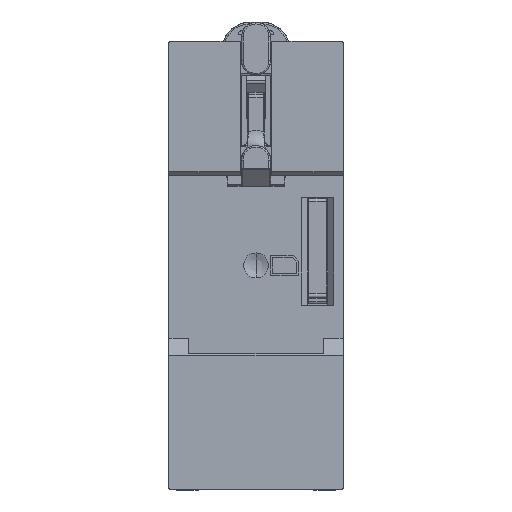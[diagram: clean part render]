
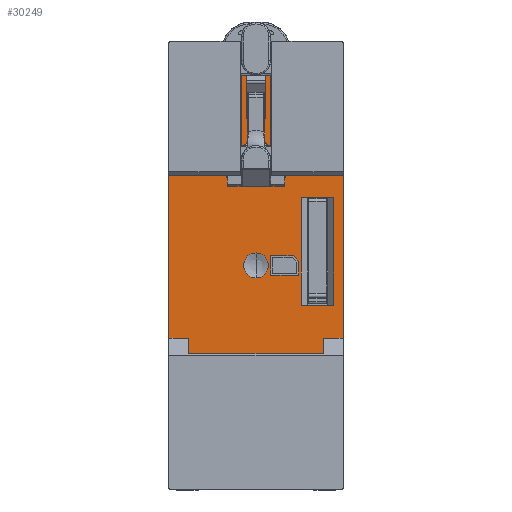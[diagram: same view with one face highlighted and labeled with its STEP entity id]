
A CAD part, top view. The second image highlights one B-rep face of the part: STEP entity #30249.
In plain terms, the highlighted planar face has unit normal (0, 0, 1).
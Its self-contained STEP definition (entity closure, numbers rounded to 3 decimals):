
#4640=DIRECTION('',(1.,0.,0.));
#4641=VECTOR('',#4640,35.);
#4642=CARTESIAN_POINT('',(-17.5,-17.65,12.));
#4643=LINE('',#4642,#4641);
#4656=DIRECTION('',(0.,1.,0.));
#4657=VECTOR('',#4656,35.7);
#4658=CARTESIAN_POINT('',(17.5,-17.65,12.));
#4659=LINE('',#4658,#4657);
#4704=DIRECTION('',(1.,0.,0.));
#4705=VECTOR('',#4704,2.906);
#4706=CARTESIAN_POINT('',(-5.9,17.65,12.));
#4707=LINE('',#4706,#4705);
#4708=DIRECTION('',(0.004,1.,0.));
#4709=VECTOR('',#4708,25.35);
#4710=CARTESIAN_POINT('',(-2.994,17.65,12.));
#4711=LINE('',#4710,#4709);
#4712=DIRECTION('',(1.,0.,0.));
#4713=VECTOR('',#4712,5.767);
#4714=CARTESIAN_POINT('',(-2.884,43.,12.));
#4715=LINE('',#4714,#4713);
#4716=DIRECTION('',(0.004,-1.,0.));
#4717=VECTOR('',#4716,25.35);
#4718=CARTESIAN_POINT('',(2.884,43.,12.));
#4719=LINE('',#4718,#4717);
#4720=DIRECTION('',(1.,0.,0.));
#4721=VECTOR('',#4720,2.906);
#4722=CARTESIAN_POINT('',(2.994,17.65,12.));
#4723=LINE('',#4722,#4721);
#4724=DIRECTION('',(-0.009,1.,0.));
#4725=VECTOR('',#4724,0.4);
#4726=CARTESIAN_POINT('',(5.9,17.65,12.));
#4727=LINE('',#4726,#4725);
#4728=DIRECTION('',(0.,1.,0.));
#4729=VECTOR('',#4728,35.7);
#4730=CARTESIAN_POINT('',(-17.5,-17.65,12.));
#4731=LINE('',#4730,#4729);
#4732=DIRECTION('',(-0.009,-1.,0.));
#4733=VECTOR('',#4732,0.4);
#4734=CARTESIAN_POINT('',(-5.897,18.05,12.));
#4735=LINE('',#4734,#4733);
#4736=DIRECTION('',(0.,1.,0.));
#4737=VECTOR('',#4736,11.653);
#4738=CARTESIAN_POINT('',(2.,29.447,12.));
#4739=LINE('',#4738,#4737);
#4740=CARTESIAN_POINT('',(0.,0.,12.));
#4741=DIRECTION('',(0.,0.,1.));
#4742=DIRECTION('',(0.,1.,0.));
#4743=AXIS2_PLACEMENT_3D('',#4740,#4741,#4742);
#4745=CARTESIAN_POINT('',(0.,0.,12.));
#4746=DIRECTION('',(0.,0.,1.));
#4747=DIRECTION('',(0.,-1.,0.));
#4748=AXIS2_PLACEMENT_3D('',#4745,#4746,#4747);
#4750=DIRECTION('',(-0.702,0.712,0.));
#4751=VECTOR('',#4750,1.573);
#4752=CARTESIAN_POINT('',(8.55,0.84,12.));
#4753=LINE('',#4752,#4751);
#4754=DIRECTION('',(-1.,0.,0.));
#4755=VECTOR('',#4754,4.495);
#4756=CARTESIAN_POINT('',(7.445,1.96,12.));
#4757=LINE('',#4756,#4755);
#4758=DIRECTION('',(0.,-1.,0.));
#4759=VECTOR('',#4758,3.92);
#4760=CARTESIAN_POINT('',(2.95,1.96,12.));
#4761=LINE('',#4760,#4759);
#4762=DIRECTION('',(1.,0.,0.));
#4763=VECTOR('',#4762,5.6);
#4764=CARTESIAN_POINT('',(2.95,-1.96,12.));
#4765=LINE('',#4764,#4763);
#4766=DIRECTION('',(0.,1.,0.));
#4767=VECTOR('',#4766,2.8);
#4768=CARTESIAN_POINT('',(8.55,-1.96,12.));
#4769=LINE('',#4768,#4767);
#5909=DIRECTION('',(-1.,0.,0.));
#5910=VECTOR('',#5909,11.603);
#5911=CARTESIAN_POINT('',(17.5,18.05,12.));
#5912=LINE('',#5911,#5910);
#6098=DIRECTION('',(-1.,0.,0.));
#6099=VECTOR('',#6098,11.603);
#6100=CARTESIAN_POINT('',(-5.897,18.05,12.));
#6101=LINE('',#6100,#6099);
#7508=DIRECTION('',(0.,1.,0.));
#7509=VECTOR('',#7508,11.653);
#7510=CARTESIAN_POINT('',(-2.,29.447,12.));
#7511=LINE('',#7510,#7509);
#7534=DIRECTION('',(1.,0.,0.));
#7535=VECTOR('',#7534,4.);
#7536=CARTESIAN_POINT('',(-2.,41.1,12.));
#7537=LINE('',#7536,#7535);
#7576=DIRECTION('',(-1.,0.,0.));
#7577=VECTOR('',#7576,4.);
#7578=CARTESIAN_POINT('',(2.,29.447,12.));
#7579=LINE('',#7578,#7577);
#7626=DIRECTION('',(0.,1.,0.));
#7627=VECTOR('',#7626,21.65);
#7628=CARTESIAN_POINT('',(9.05,-8.,12.));
#7629=LINE('',#7628,#7627);
#7638=DIRECTION('',(1.,0.,0.));
#7639=VECTOR('',#7638,6.6);
#7640=CARTESIAN_POINT('',(9.05,13.65,12.));
#7641=LINE('',#7640,#7639);
#7670=DIRECTION('',(0.,-1.,0.));
#7671=VECTOR('',#7670,21.65);
#7672=CARTESIAN_POINT('',(15.65,13.65,12.));
#7673=LINE('',#7672,#7671);
#7674=DIRECTION('',(-1.,0.,0.));
#7675=VECTOR('',#7674,6.6);
#7676=CARTESIAN_POINT('',(15.65,-8.,12.));
#7677=LINE('',#7676,#7675);
#21996=CARTESIAN_POINT('',(-17.5,18.05,12.));
#21997=VERTEX_POINT('',#21996);
#21998=CARTESIAN_POINT('',(-17.5,-17.65,12.));
#21999=VERTEX_POINT('',#21998);
#22050=CARTESIAN_POINT('',(17.5,-17.65,12.));
#22051=VERTEX_POINT('',#22050);
#22056=CARTESIAN_POINT('',(17.5,18.05,12.));
#22057=VERTEX_POINT('',#22056);
#22098=CARTESIAN_POINT('',(-5.9,17.65,12.));
#22099=CARTESIAN_POINT('',(-2.994,17.65,12.));
#22100=VERTEX_POINT('',#22098);
#22101=VERTEX_POINT('',#22099);
#22102=CARTESIAN_POINT('',(-2.884,43.,12.));
#22103=VERTEX_POINT('',#22102);
#22104=CARTESIAN_POINT('',(2.884,43.,12.));
#22105=VERTEX_POINT('',#22104);
#22106=CARTESIAN_POINT('',(2.994,17.65,12.));
#22107=VERTEX_POINT('',#22106);
#22108=CARTESIAN_POINT('',(5.9,17.65,12.));
#22109=VERTEX_POINT('',#22108);
#22110=CARTESIAN_POINT('',(5.897,18.05,12.));
#22111=VERTEX_POINT('',#22110);
#22112=CARTESIAN_POINT('',(-5.897,18.05,12.));
#22113=VERTEX_POINT('',#22112);
#22114=CARTESIAN_POINT('',(-2.,29.447,12.));
#22115=CARTESIAN_POINT('',(-2.,41.1,12.));
#22116=VERTEX_POINT('',#22114);
#22117=VERTEX_POINT('',#22115);
#22118=CARTESIAN_POINT('',(2.,29.447,12.));
#22119=VERTEX_POINT('',#22118);
#22120=CARTESIAN_POINT('',(2.,41.1,12.));
#22121=VERTEX_POINT('',#22120);
#22122=CARTESIAN_POINT('',(0.,2.5,12.));
#22123=CARTESIAN_POINT('',(0.,-2.5,12.));
#22124=VERTEX_POINT('',#22122);
#22125=VERTEX_POINT('',#22123);
#22126=CARTESIAN_POINT('',(9.05,-8.,12.));
#22127=CARTESIAN_POINT('',(9.05,13.65,12.));
#22128=VERTEX_POINT('',#22126);
#22129=VERTEX_POINT('',#22127);
#22130=CARTESIAN_POINT('',(15.65,-8.,12.));
#22131=VERTEX_POINT('',#22130);
#22132=CARTESIAN_POINT('',(15.65,13.65,12.));
#22133=VERTEX_POINT('',#22132);
#22134=CARTESIAN_POINT('',(8.55,0.84,12.));
#22135=CARTESIAN_POINT('',(7.445,1.96,12.));
#22136=VERTEX_POINT('',#22134);
#22137=VERTEX_POINT('',#22135);
#22138=CARTESIAN_POINT('',(2.95,1.96,12.));
#22139=VERTEX_POINT('',#22138);
#22140=CARTESIAN_POINT('',(2.95,-1.96,12.));
#22141=VERTEX_POINT('',#22140);
#22142=CARTESIAN_POINT('',(8.55,-1.96,12.));
#22143=VERTEX_POINT('',#22142);
#30183=CARTESIAN_POINT('',(-21.,-17.65,12.));
#30184=DIRECTION('',(0.,0.,-1.));
#30185=DIRECTION('',(0.,1.,0.));
#30186=AXIS2_PLACEMENT_3D('',#30183,#30184,#30185);
#30187=PLANE('',#30186);
#30189=ORIENTED_EDGE('',*,*,#30188,.T.);
#30191=ORIENTED_EDGE('',*,*,#30190,.T.);
#30193=ORIENTED_EDGE('',*,*,#30192,.T.);
#30195=ORIENTED_EDGE('',*,*,#30194,.T.);
#30197=ORIENTED_EDGE('',*,*,#30196,.T.);
#30199=ORIENTED_EDGE('',*,*,#30198,.T.);
#30201=ORIENTED_EDGE('',*,*,#30200,.F.);
#30202=ORIENTED_EDGE('',*,*,#30134,.F.);
#30203=ORIENTED_EDGE('',*,*,#30105,.F.);
#30204=ORIENTED_EDGE('',*,*,#30022,.T.);
#30206=ORIENTED_EDGE('',*,*,#30205,.F.);
#30208=ORIENTED_EDGE('',*,*,#30207,.T.);
#30209=EDGE_LOOP('',(#30189,#30191,#30193,#30195,#30197,#30199,#30201,#30202,
#30203,#30204,#30206,#30208));
#30210=FACE_OUTER_BOUND('',#30209,.F.);
#30212=ORIENTED_EDGE('',*,*,#30211,.F.);
#30214=ORIENTED_EDGE('',*,*,#30213,.F.);
#30216=ORIENTED_EDGE('',*,*,#30215,.T.);
#30218=ORIENTED_EDGE('',*,*,#30217,.F.);
#30219=EDGE_LOOP('',(#30212,#30214,#30216,#30218));
#30220=FACE_BOUND('',#30219,.F.);
#30222=ORIENTED_EDGE('',*,*,#30221,.T.);
#30224=ORIENTED_EDGE('',*,*,#30223,.T.);
#30225=EDGE_LOOP('',(#30222,#30224));
#30226=FACE_BOUND('',#30225,.F.);
#30228=ORIENTED_EDGE('',*,*,#30227,.F.);
#30230=ORIENTED_EDGE('',*,*,#30229,.F.);
#30232=ORIENTED_EDGE('',*,*,#30231,.F.);
#30234=ORIENTED_EDGE('',*,*,#30233,.F.);
#30235=EDGE_LOOP('',(#30228,#30230,#30232,#30234));
#30236=FACE_BOUND('',#30235,.F.);
#30238=ORIENTED_EDGE('',*,*,#30237,.T.);
#30240=ORIENTED_EDGE('',*,*,#30239,.T.);
#30242=ORIENTED_EDGE('',*,*,#30241,.T.);
#30244=ORIENTED_EDGE('',*,*,#30243,.T.);
#30246=ORIENTED_EDGE('',*,*,#30245,.T.);
#30247=EDGE_LOOP('',(#30238,#30240,#30242,#30244,#30246));
#30248=FACE_BOUND('',#30247,.F.);
#4744=CIRCLE('',#4743,2.5);
#4749=CIRCLE('',#4748,2.5);
#30022=EDGE_CURVE('',#21999,#21997,#4731,.T.);
#30105=EDGE_CURVE('',#21999,#22051,#4643,.T.);
#30134=EDGE_CURVE('',#22051,#22057,#4659,.T.);
#30188=EDGE_CURVE('',#22100,#22101,#4707,.T.);
#30190=EDGE_CURVE('',#22101,#22103,#4711,.T.);
#30192=EDGE_CURVE('',#22103,#22105,#4715,.T.);
#30194=EDGE_CURVE('',#22105,#22107,#4719,.T.);
#30196=EDGE_CURVE('',#22107,#22109,#4723,.T.);
#30198=EDGE_CURVE('',#22109,#22111,#4727,.T.);
#30200=EDGE_CURVE('',#22057,#22111,#5912,.T.);
#30205=EDGE_CURVE('',#22113,#21997,#6101,.T.);
#30207=EDGE_CURVE('',#22113,#22100,#4735,.T.);
#30211=EDGE_CURVE('',#22116,#22117,#7511,.T.);
#30213=EDGE_CURVE('',#22119,#22116,#7579,.T.);
#30215=EDGE_CURVE('',#22119,#22121,#4739,.T.);
#30217=EDGE_CURVE('',#22117,#22121,#7537,.T.);
#30221=EDGE_CURVE('',#22124,#22125,#4744,.T.);
#30223=EDGE_CURVE('',#22125,#22124,#4749,.T.);
#30227=EDGE_CURVE('',#22128,#22129,#7629,.T.);
#30229=EDGE_CURVE('',#22131,#22128,#7677,.T.);
#30231=EDGE_CURVE('',#22133,#22131,#7673,.T.);
#30233=EDGE_CURVE('',#22129,#22133,#7641,.T.);
#30237=EDGE_CURVE('',#22136,#22137,#4753,.T.);
#30239=EDGE_CURVE('',#22137,#22139,#4757,.T.);
#30241=EDGE_CURVE('',#22139,#22141,#4761,.T.);
#30243=EDGE_CURVE('',#22141,#22143,#4765,.T.);
#30245=EDGE_CURVE('',#22143,#22136,#4769,.T.);
#30249=ADVANCED_FACE('',(#30210,#30220,#30226,#30236,#30248),#30187,.F.);
